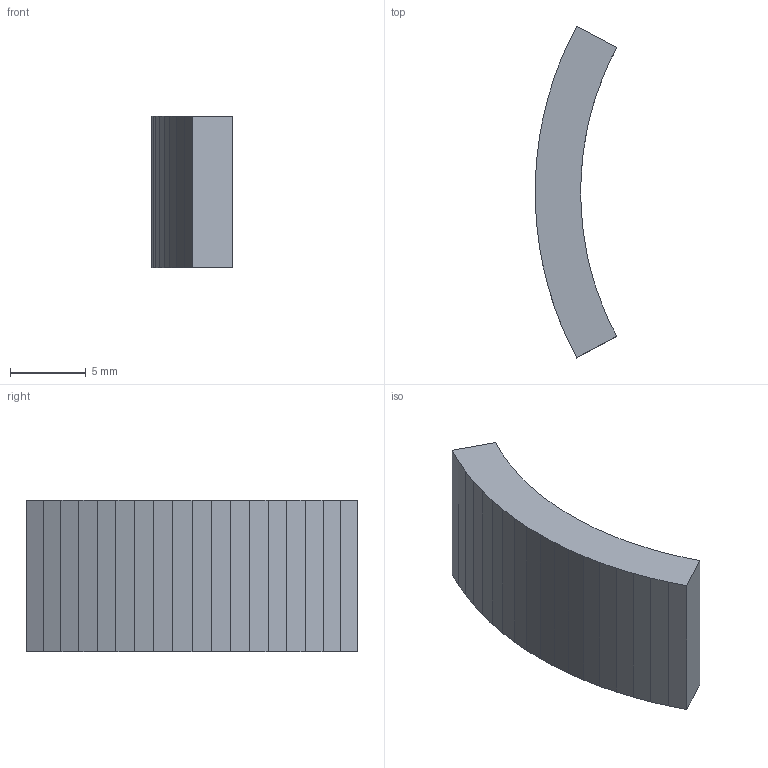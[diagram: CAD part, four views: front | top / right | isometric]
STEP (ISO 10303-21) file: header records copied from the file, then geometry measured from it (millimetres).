
FILE_DESCRIPTION(('Open CASCADE Model'),'2;1');
FILE_NAME('Open CASCADE Shape Model','2026-10-04T02:31:40',('Author'),( 'Open CASCADE'),'Open CASCADE STEP processor 8.0','Open CASCADE 8.0' ,'Unknown');
FILE_SCHEMA(('AUTOMOTIVE_DESIGN { 1 0 10303 214 1 1 1 1 }'));
Length unit declared in the file: millimetre
Products named in the file (1): Open CASCADE STEP translator 8.0 221
Bounding box: 5.38 x 21.88 x 10 mm (x, y, z)
Volume: 638.9 mm3; surface area: 613.9 mm2
Topology: 1 solids, 1 shells, 40 faces, 114 edges, 76 vertices
Faces by surface type: plane 40
Entity records: 2770 total; most frequent: CARTESIAN_POINT 459, DIRECTION 424, LINE 342, VECTOR 342, ORIENTED_EDGE 228, PCURVE 228, DEFINITIONAL_REPRESENTATION 228, EDGE_CURVE 114
